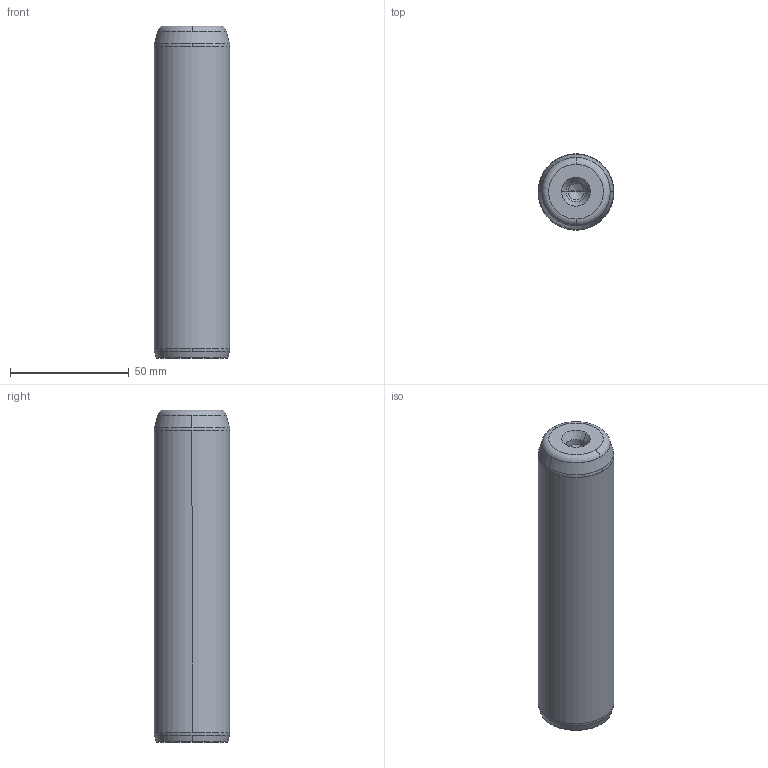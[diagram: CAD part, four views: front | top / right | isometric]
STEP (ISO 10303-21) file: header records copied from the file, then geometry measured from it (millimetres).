
FILE_DESCRIPTION((''),'2;1');
FILE_NAME('P10_032_140.stp','2008-12-23T15:03:27',(''),(''),'Mechanical Desktop 2009','Mechanical Desktop 2009',', , ');
FILE_SCHEMA(('CONFIG_CONTROL_DESIGN'));
Length unit declared in the file: millimetre
Products named in the file (5): Product; ProductAA; blmdl1; ProductA; blmdl1A
Assembly tree (2 placements, depth 3):
  Product
    ProductAA
      blmdl1
  ProductA
  blmdl1A
Bounding box: 32 x 32 x 140 mm (x, y, z)
Volume: 110370 mm3; surface area: 15830.2 mm2
Topology: 1 solids, 1 shells, 26 faces, 66 edges, 41 vertices
Faces by surface type: cone 10, torus 8, cylinder 6, plane 2
Entity records: 1012 total; most frequent: DIRECTION 170, CARTESIAN_POINT 134, ORIENTED_EDGE 128, AXIS2_PLACEMENT_3D 77, EDGE_CURVE 64, CIRCLE 48, VERTEX_POINT 41, EDGE_LOOP 27
